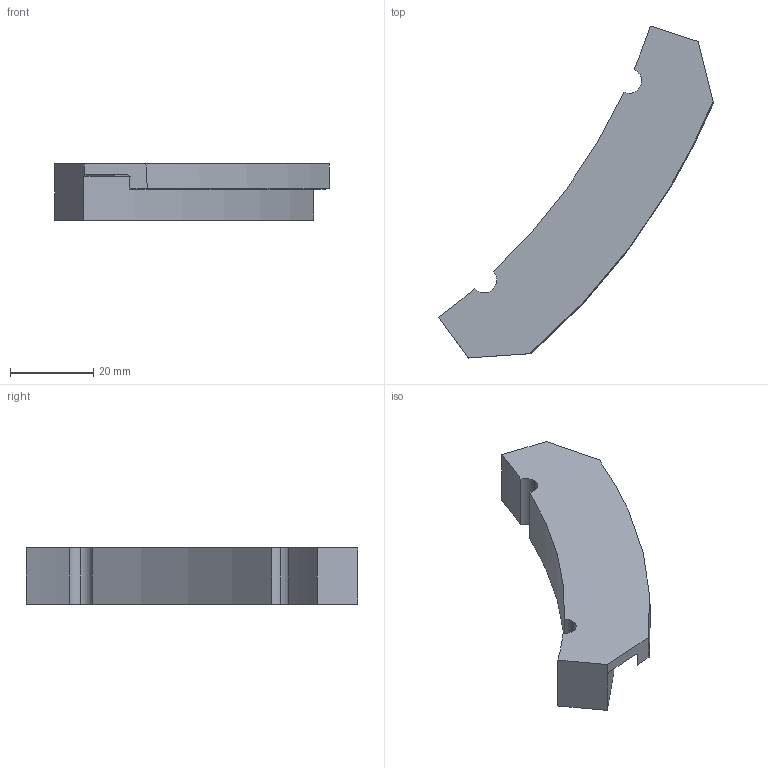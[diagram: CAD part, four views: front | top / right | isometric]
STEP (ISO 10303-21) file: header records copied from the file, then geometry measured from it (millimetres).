
FILE_DESCRIPTION(('CATIA V5 STEP Exchange'),'2;1');
FILE_NAME('D:\交接\张长江\21-Benz H6\光华荣昌转盘数据\H6 转盘\转盘用整椅数据 A9609109920\sample\H6 转盘夏季测试样件方案_20240617\样件数据\钣金件\SHT0017294-7 转盘下板防脱钩.stp','2024-06-19T06:07:17+00:00',('none'),('none'),'CATIA Version 5 Release 20 GA (IN-10)','CATIA V5 STEP AP203 Edition 2','none');
FILE_SCHEMA(('AP203_CONFIGURATION_CONTROLLED_3D_DESIGN_OF_MECHANICAL_PARTS_AND_ASSEMBLIES_MIM_LF { 1 0 10303 403 2 1 2}'));
Length unit declared in the file: millimetre
Products named in the file (1): SHT0017294-7
Bounding box: 66.02 x 79.77 x 13.5 mm (x, y, z)
Volume: 16985 mm3; surface area: 7058.8 mm2
Topology: 1 solids, 1 shells, 22 faces, 60 edges, 40 vertices
Faces by surface type: cylinder 10, plane 7, cone 2, torus 2, bspline 1
Entity records: 747 total; most frequent: CARTESIAN_POINT 201, ORIENTED_EDGE 120, DIRECTION 83, EDGE_CURVE 60, AXIS2_PLACEMENT_3D 43, VERTEX_POINT 40, CIRCLE 23, VECTOR 22
